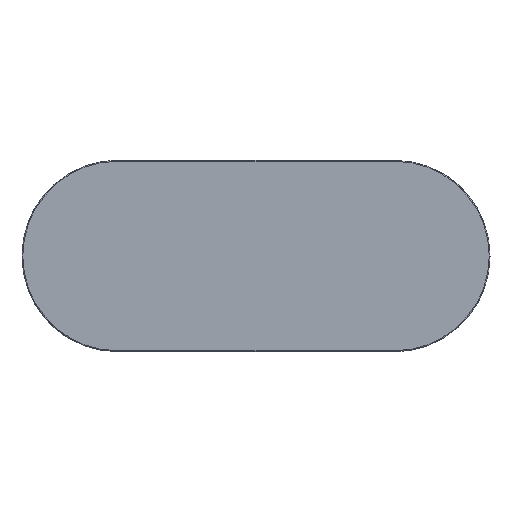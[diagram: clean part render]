
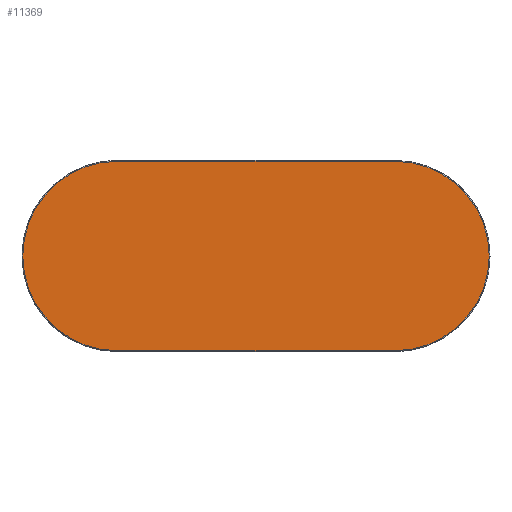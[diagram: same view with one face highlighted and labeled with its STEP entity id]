
A CAD part, front view. The second image highlights one B-rep face of the part: STEP entity #11369.
In plain terms, the highlighted planar face has unit normal (0, -1, 0).
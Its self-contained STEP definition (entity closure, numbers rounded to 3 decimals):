
#622 = CARTESIAN_POINT ( 'NONE',  ( 0., 0., -24.3 ) ) ;
#872 = DIRECTION ( 'NONE',  ( 0., -1., 0. ) ) ;
#1497 = LINE ( 'NONE', #622, #8899 ) ;
#1513 = ORIENTED_EDGE ( 'NONE', *, *, #2463, .T. ) ;
#1866 = EDGE_LOOP ( 'NONE', ( #1513, #5871, #7485, #9067 ) ) ;
#2393 = CIRCLE ( 'NONE', #3778, 24.3 ) ;
#2463 = EDGE_CURVE ( 'NONE', #10280, #3644, #5268, .T. ) ;
#2888 = DIRECTION ( 'NONE',  ( 0., 1., 0. ) ) ;
#2925 = AXIS2_PLACEMENT_3D ( 'NONE', #4234, #7044, #8806 ) ;
#3644 = VERTEX_POINT ( 'NONE', #7685 ) ;
#3667 = CARTESIAN_POINT ( 'NONE',  ( 0., 0., 24.3 ) ) ;
#3778 = AXIS2_PLACEMENT_3D ( 'NONE', #6420, #872, #7372 ) ;
#4234 = CARTESIAN_POINT ( 'NONE',  ( 0., 0., 0. ) ) ;
#4323 = VECTOR ( 'NONE', #5401, 1000. ) ;
#5268 = CIRCLE ( 'NONE', #2925, 24.3 ) ;
#5401 = DIRECTION ( 'NONE',  ( -1., 0., 0. ) ) ;
#5479 = FACE_OUTER_BOUND ( 'NONE', #1866, .T. ) ;
#5871 = ORIENTED_EDGE ( 'NONE', *, *, #8605, .T. ) ;
#6169 = DIRECTION ( 'NONE',  ( 1., 0., 0. ) ) ;
#6355 = EDGE_CURVE ( 'NONE', #8134, #8527, #2393, .T. ) ;
#6420 = CARTESIAN_POINT ( 'NONE',  ( 71., 0., 0. ) ) ;
#7044 = DIRECTION ( 'NONE',  ( 0., -1., 0. ) ) ;
#7372 = DIRECTION ( 'NONE',  ( 0., 0., 1. ) ) ;
#7485 = ORIENTED_EDGE ( 'NONE', *, *, #6355, .T. ) ;
#7685 = CARTESIAN_POINT ( 'NONE',  ( 0., 0., -24.3 ) ) ;
#8026 = CARTESIAN_POINT ( 'NONE',  ( 71., 0., -24.3 ) ) ;
#8134 = VERTEX_POINT ( 'NONE', #8026 ) ;
#8451 = PLANE ( 'NONE',  #11559 ) ;
#8527 = VERTEX_POINT ( 'NONE', #9617 ) ;
#8605 = EDGE_CURVE ( 'NONE', #3644, #8134, #1497, .T. ) ;
#8806 = DIRECTION ( 'NONE',  ( 0., 0., 1. ) ) ;
#8896 = CARTESIAN_POINT ( 'NONE',  ( 0., 0., 24.3 ) ) ;
#8899 = VECTOR ( 'NONE', #6169, 1000. ) ;
#9067 = ORIENTED_EDGE ( 'NONE', *, *, #10640, .T. ) ;
#9387 = DIRECTION ( 'NONE',  ( 0., 0., 1. ) ) ;
#9617 = CARTESIAN_POINT ( 'NONE',  ( 71., 0., 24.3 ) ) ;
#10280 = VERTEX_POINT ( 'NONE', #3667 ) ;
#10640 = EDGE_CURVE ( 'NONE', #8527, #10280, #11466, .T. ) ;
#11220 = CARTESIAN_POINT ( 'NONE',  ( 0., 0., 0. ) ) ;
#11369 = ADVANCED_FACE ( 'NONE', ( #5479 ), #8451, .F. ) ;
#11466 = LINE ( 'NONE', #8896, #4323 ) ;
#11559 = AXIS2_PLACEMENT_3D ( 'NONE', #11220, #2888, #9387 ) ;
